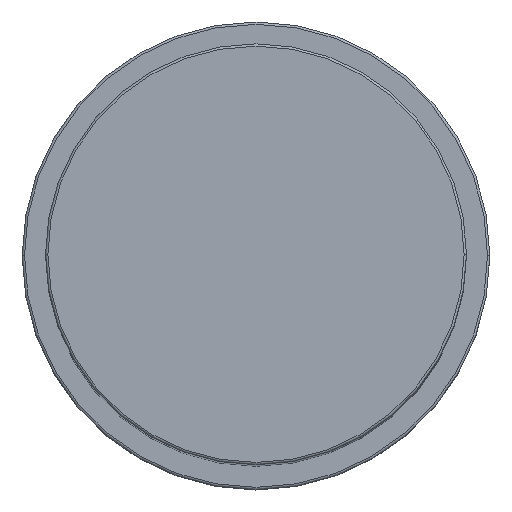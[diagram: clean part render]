
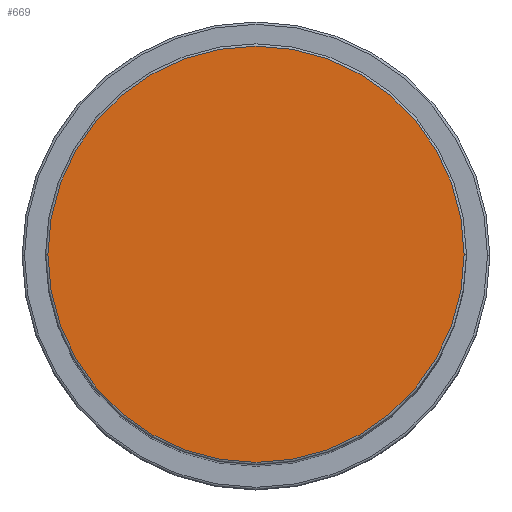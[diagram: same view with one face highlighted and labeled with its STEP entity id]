
A CAD part, top view. The second image highlights one B-rep face of the part: STEP entity #669.
In plain terms, the highlighted planar face has unit normal (0, 0, 1).
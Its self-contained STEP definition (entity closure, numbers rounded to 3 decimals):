
#3 = CIRCLE ( 'NONE', #585, 44.5 ) ;
#54 = EDGE_CURVE ( 'NONE', #1703, #153, #3, .T. ) ;
#89 = FACE_OUTER_BOUND ( 'NONE', #128, .T. ) ;
#128 = EDGE_LOOP ( 'NONE', ( #404, #158 ) ) ;
#129 = CIRCLE ( 'NONE', #1757, 44.5 ) ;
#153 = VERTEX_POINT ( 'NONE', #970 ) ;
#157 = PLANE ( 'NONE',  #1155 ) ;
#158 = ORIENTED_EDGE ( 'NONE', *, *, #54, .T. ) ;
#403 = CARTESIAN_POINT ( 'NONE',  ( 0., 0., 209. ) ) ;
#404 = ORIENTED_EDGE ( 'NONE', *, *, #1808, .T. ) ;
#425 = DIRECTION ( 'NONE',  ( 0., 0., 1. ) ) ;
#585 = AXIS2_PLACEMENT_3D ( 'NONE', #403, #1531, #988 ) ;
#669 = ADVANCED_FACE ( 'NONE', ( #89 ), #157, .T. ) ;
#970 = CARTESIAN_POINT ( 'NONE',  ( 44.5, 0., 209. ) ) ;
#988 = DIRECTION ( 'NONE',  ( 1., 0., 0. ) ) ;
#1109 = CARTESIAN_POINT ( 'NONE',  ( -44.5, 0., 209. ) ) ;
#1150 = DIRECTION ( 'NONE',  ( 0., 0., 1. ) ) ;
#1155 = AXIS2_PLACEMENT_3D ( 'NONE', #1811, #1150, #1273 ) ;
#1273 = DIRECTION ( 'NONE',  ( 1., 0., 0. ) ) ;
#1409 = DIRECTION ( 'NONE',  ( 1., 0., 0. ) ) ;
#1531 = DIRECTION ( 'NONE',  ( 0., 0., 1. ) ) ;
#1653 = CARTESIAN_POINT ( 'NONE',  ( 0., 0., 209. ) ) ;
#1703 = VERTEX_POINT ( 'NONE', #1109 ) ;
#1757 = AXIS2_PLACEMENT_3D ( 'NONE', #1653, #425, #1409 ) ;
#1808 = EDGE_CURVE ( 'NONE', #153, #1703, #129, .T. ) ;
#1811 = CARTESIAN_POINT ( 'NONE',  ( 0., 0., 209. ) ) ;
